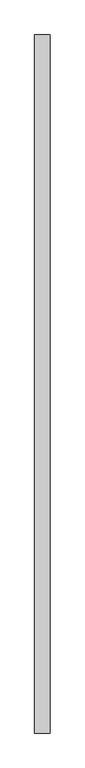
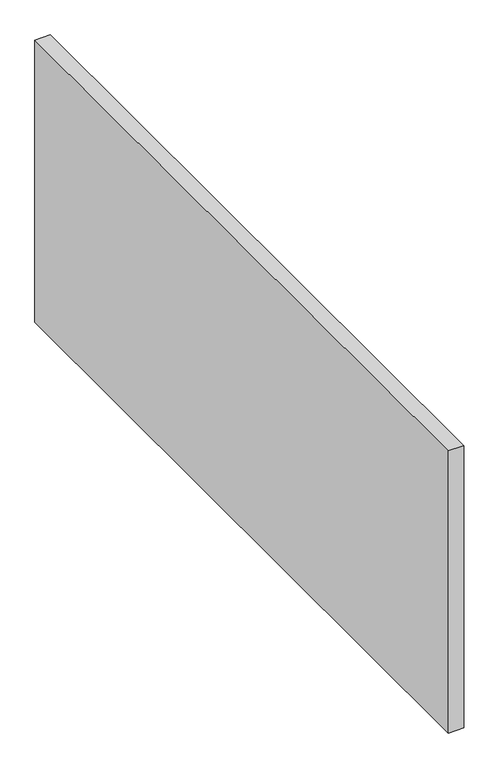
"""IFC4 building model written with IfcOpenShell, lengths in millimetres: duct fitting geometry, ADSK_ВрезкаВоздуховода_Прямоугольная1 : Стандарт 2."""

from ifc_helpers import new_model, si_unit, frame, origin, place, context, project, spatial, polyline, outline, extrude, source, transform, mapped, element, save


def duct_fitting_6afe1d9e(model_context):
    return source(origin(), model_context, "Body", "SweptSolid", [
        extrude(outline(polyline([(-6.096, 600.0), (20.0, 600.0), (20.0, -600.0), (-6.096, -600.0), (-6.096, 600.0)])), frame((0.0, 0.0, -250.0), z_axis=(0.0, 0.0, 1.0), x_axis=(1.0, 0.0, 0.0)), (0.0, 0.0, 1.0), 500.0),
    ])


if __name__ == "__main__":
    model = new_model("IFC4")
    model_context = context("Model", 3, world=origin())
    ifc_project = project(units=[si_unit("LENGTHUNIT", "METRE", prefix="MILLI")], contexts=[model_context])
    site = spatial("IfcSite", under=ifc_project)
    building = spatial("IfcBuilding", under=site)
    placement = place(None, origin())
    duct_fitting_shape = duct_fitting_6afe1d9e(model_context)
    element("IfcDuctFitting", 1, ObjectType="ADSK_ВрезкаВоздуховода_Прямоугольная1 : Стандарт 2", at=placement, inside=building, context=model_context, shape_type="MappedRepresentation", body=[
        mapped(duct_fitting_shape, transform((0.0, 0.0, 0.0), x_axis=(1.0, 0.0, 0.0), y_axis=(0.0, 1.0, 0.0), z_axis=(0.0, 0.0, 1.0))),
    ])
    save(model, "model.ifc")
